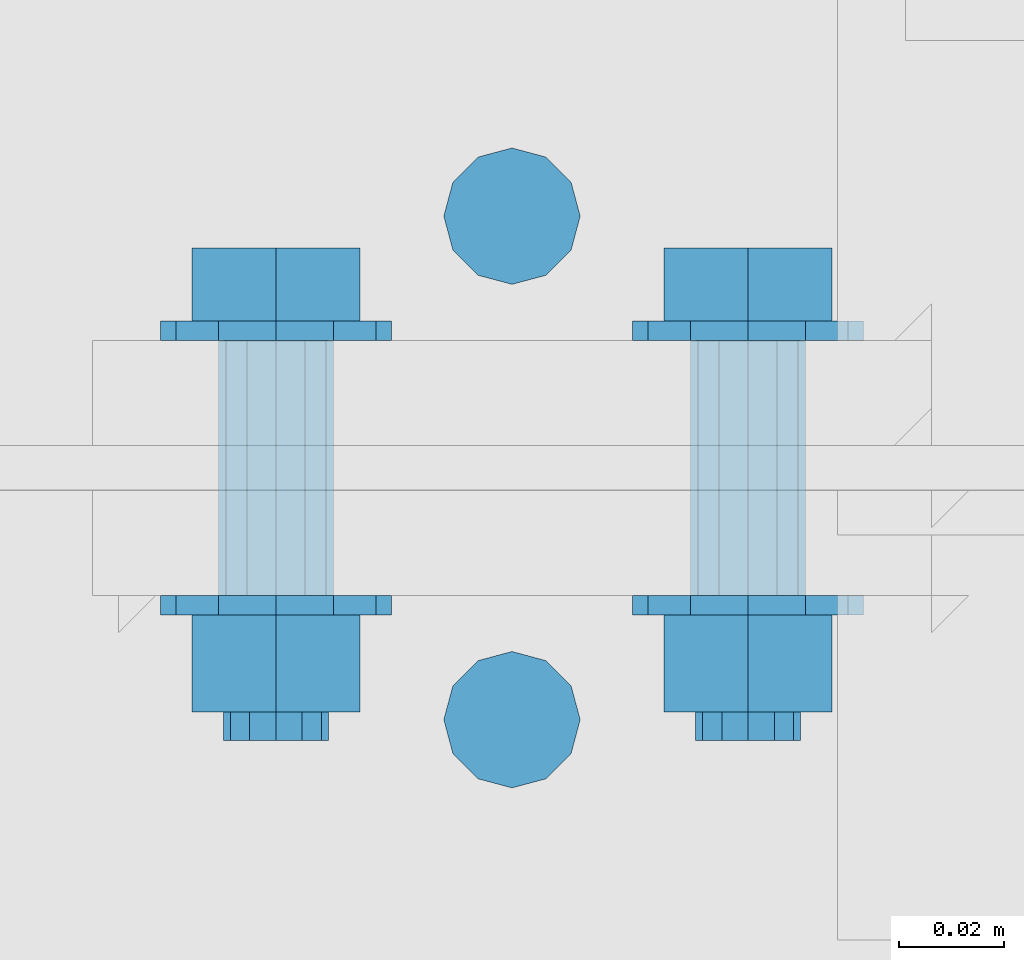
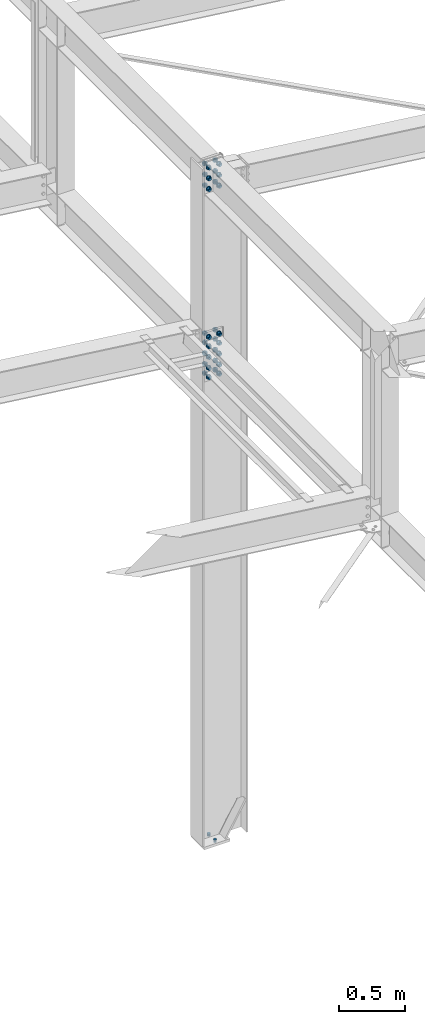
# One storey, part 113 of 3134: 3 mechanical fasteners, 2 elements without a shape of their own.
"""IFC2X3 building model written with IfcOpenShell, lengths in millimetres."""

from ifc_helpers import new_model, si_unit, frame, origin_with_axes, place, context, subcontext, project, spatial, faceted_brep, source, transform, mapped, material, type_object, element, aggregate, save


model = new_model("IFC2X3")

# Units and contexts
model_context = context("Model", 3, precision=1e-05, world=origin_with_axes())
body_context = subcontext(model_context, "Body", "Model", "MODEL_VIEW")
ifc_project = project(units=[si_unit("LENGTHUNIT", "METRE", prefix="MILLI"), si_unit("AREAUNIT", "SQUARE_METRE"), si_unit("VOLUMEUNIT", "CUBIC_METRE"), si_unit("MASSUNIT", "GRAM", prefix="KILO"), si_unit("TIMEUNIT", "SECOND"), si_unit("PLANEANGLEUNIT", "RADIAN"), si_unit("SOLIDANGLEUNIT", "STERADIAN"), si_unit("THERMODYNAMICTEMPERATUREUNIT", "DEGREE_CELSIUS"), si_unit("LUMINOUSINTENSITYUNIT", "LUMEN")], contexts=[model_context])

# Site, building, storey
site_placement = place(None, origin_with_axes())
site = spatial("IfcSite", under=ifc_project, at=site_placement, CompositionType="ELEMENT")
building_placement = place(site_placement, origin_with_axes())
building = spatial("IfcBuilding", under=site, at=building_placement, Name="Undefined", CompositionType="ELEMENT")
storey_placement = place(building_placement, origin_with_axes())
storey = spatial("IfcBuildingStorey", under=building, at=storey_placement, Name="Undefined", CompositionType="ELEMENT", Elevation=0.0)

# Assembly, mechanical fasteners
assembly_1_placement = place(storey_placement, origin_with_axes())
assembly_1 = element("IfcElementAssembly", 1, at=assembly_1_placement, inside=storey, Name="300", AssemblyPlace="NOTDEFINED", PredefinedType="RIGID_FRAME")
ifc_material_1 = material(Name="HR10.9")
mechanical_fastener_type = type_object("IfcMechanicalFastenerType", Name="Bolt assembly")
shared_shape_1 = source(origin_with_axes(), body_context, "Body", "Brep", [
    faceted_brep([(18.475208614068, -61.8999996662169, 0.0), (9.23760430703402, -61.8999996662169, 16.0), (-9.23760430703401, -61.8999996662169, 16.0), (-18.475208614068, -61.8999996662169, 2.2625605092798e-15), (-9.23760430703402, -61.8999996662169, -16.0), (9.237604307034, -61.8999996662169, -16.0), (9.237604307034, -48.0000000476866, -16.0), (-9.23760430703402, -48.0000000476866, -16.0), (-18.475208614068, -48.0000000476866, 2.2625605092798e-15), (-9.23760430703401, -48.0000000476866, 16.0), (9.23760430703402, -48.0000000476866, 16.0), (18.475208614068, -48.0000000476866, 0.0), (10.0, -48.0000000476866, 0.0), (8.66025403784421, -48.0000000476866, 5.0000000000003), (4.9999999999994, -48.0000000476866, 8.66025403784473), (-1.03633598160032e-12, -48.0000000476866, 10.0), (-5.00000000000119, -48.0000000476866, 8.6602540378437), (-8.66025403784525, -48.0000000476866, 4.99999999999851), (-10.0, -48.0000000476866, -2.07267196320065e-12), (-8.66025403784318, -48.0000000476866, -5.00000000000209), (-4.99999999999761, -48.0000000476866, -8.66025403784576), (3.09790571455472e-12, -48.0000000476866, -10.0), (5.00000000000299, -48.0000000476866, -8.66025403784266), (8.66025403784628, -48.0000000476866, -4.99999999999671), (8.66025403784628, 31.9999999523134, -4.99999999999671), (5.00000000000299, 31.9999999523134, -8.66025403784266), (3.09790571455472e-12, 31.9999999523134, -10.0), (-4.99999999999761, 31.9999999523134, -8.66025403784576), (-8.66025403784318, 31.9999999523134, -5.00000000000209), (-10.0, 31.9999999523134, -2.07267196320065e-12), (-8.66025403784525, 31.9999999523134, 4.99999999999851), (-5.00000000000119, 31.9999999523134, 8.6602540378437), (-1.03633598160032e-12, 31.9999999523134, 10.0), (4.9999999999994, 31.9999999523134, 8.66025403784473), (8.66025403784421, 31.9999999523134, 5.0000000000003), (10.0, 31.9999999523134, 0.0), (22.0, -48.0000000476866, 0.0), (19.0525588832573, -48.0000000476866, 11.0000000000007), (10.9999999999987, -48.0000000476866, 19.0525588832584), (-2.27993915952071e-12, -48.0000000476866, 22.0), (-11.0000000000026, -48.0000000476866, 19.0525588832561), (-19.0525588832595, -48.0000000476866, 10.9999999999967), (-22.0, -48.0000000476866, -4.55987831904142e-12), (-19.052558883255, -48.0000000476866, -11.0000000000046), (-10.9999999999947, -48.0000000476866, -19.0525588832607), (6.81539257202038e-12, -48.0000000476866, -22.0), (11.0000000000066, -48.0000000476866, -19.0525588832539), (19.0525588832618, -48.0000000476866, -10.9999999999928), (19.0525588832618, -44.3000000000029, -10.9999999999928), (11.0000000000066, -44.3000000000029, -19.0525588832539), (6.81539257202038e-12, -44.3000000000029, -22.0), (-10.9999999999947, -44.3000000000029, -19.0525588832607), (-19.052558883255, -44.3000000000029, -11.0000000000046), (-22.0, -44.3000000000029, -4.55987831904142e-12), (-19.0525588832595, -44.3000000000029, 10.9999999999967), (-11.0000000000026, -44.3000000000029, 19.0525588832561), (-2.27993915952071e-12, -44.3000000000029, 22.0), (10.9999999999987, -44.3000000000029, 19.0525588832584), (19.0525588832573, -44.3000000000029, 11.0000000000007), (22.0, -44.3000000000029, 0.0), (22.0, 4.30000000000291, 0.0), (19.0525588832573, 4.30000000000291, 11.0000000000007), (10.9999999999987, 4.30000000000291, 19.0525588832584), (-2.27993915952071e-12, 4.30000000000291, 22.0), (-11.0000000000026, 4.30000000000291, 19.0525588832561), (-19.0525588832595, 4.30000000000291, 10.9999999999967), (-22.0, 4.30000000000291, -4.55987831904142e-12), (-19.052558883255, 4.30000000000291, -11.0000000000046), (-10.9999999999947, 4.30000000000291, -19.0525588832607), (6.81539257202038e-12, 4.30000000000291, -22.0), (11.0000000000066, 4.30000000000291, -19.0525588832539), (19.0525588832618, 4.30000000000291, -10.9999999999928), (19.0525588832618, 8.00000004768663, -10.9999999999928), (11.0000000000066, 8.00000004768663, -19.0525588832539), (6.81539257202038e-12, 8.00000004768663, -22.0), (-10.9999999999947, 8.00000004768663, -19.0525588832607), (-19.052558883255, 8.00000004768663, -11.0000000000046), (-22.0, 8.00000004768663, -4.55987831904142e-12), (-19.0525588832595, 8.00000004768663, 10.9999999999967), (-11.0000000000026, 8.00000004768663, 19.0525588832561), (-2.27993915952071e-12, 8.00000004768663, 22.0), (10.9999999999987, 8.00000004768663, 19.0525588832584), (19.0525588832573, 8.00000004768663, 11.0000000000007), (22.0, 8.00000004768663, 0.0), (18.475208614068, 8.00000004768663, 0.0), (9.23760430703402, 8.00000004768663, 16.0), (-9.23760430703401, 8.00000004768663, 16.0), (-18.475208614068, 8.00000004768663, 2.2625605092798e-15), (-9.23760430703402, 8.00000004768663, -16.0), (9.237604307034, 8.00000004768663, -16.0), (9.237604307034, 26.5499992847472, -16.0), (-9.23760430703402, 26.5499992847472, -16.0), (-18.475208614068, 26.5499992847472, 2.2625605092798e-15), (-9.23760430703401, 26.5499992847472, 16.0), (9.23760430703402, 26.5499992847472, 16.0), (18.475208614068, 26.5499992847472, 0.0)], [[[0, 1, 2, 3, 4, 5]], [[6, 7, 8, 9, 10, 11]], [[0, 11, 10, 1]], [[1, 10, 9, 2]], [[2, 9, 8, 3]], [[3, 8, 7, 4]], [[4, 7, 6, 5]], [[5, 6, 11, 0]], [[12, 13, 14, 15, 16, 17, 18, 19, 20, 21, 22, 23]], [[24, 25, 26, 27, 28, 29, 30, 31, 32, 33, 34, 35]], [[12, 35, 34, 13]], [[13, 34, 33, 14]], [[14, 33, 32, 15]], [[15, 32, 31, 16]], [[16, 31, 30, 17]], [[17, 30, 29, 18]], [[18, 29, 28, 19]], [[19, 28, 27, 20]], [[20, 27, 26, 21]], [[21, 26, 25, 22]], [[22, 25, 24, 23]], [[23, 24, 35, 12]], [[36, 37, 38, 39, 40, 41, 42, 43, 44, 45, 46, 47]], [[48, 49, 50, 51, 52, 53, 54, 55, 56, 57, 58, 59]], [[36, 59, 58, 37]], [[37, 58, 57, 38]], [[38, 57, 56, 39]], [[39, 56, 55, 40]], [[40, 55, 54, 41]], [[41, 54, 53, 42]], [[42, 53, 52, 43]], [[43, 52, 51, 44]], [[44, 51, 50, 45]], [[45, 50, 49, 46]], [[46, 49, 48, 47]], [[47, 48, 59, 36]], [[60, 61, 62, 63, 64, 65, 66, 67, 68, 69, 70, 71]], [[72, 73, 74, 75, 76, 77, 78, 79, 80, 81, 82, 83]], [[60, 83, 82, 61]], [[61, 82, 81, 62]], [[62, 81, 80, 63]], [[63, 80, 79, 64]], [[64, 79, 78, 65]], [[65, 78, 77, 66]], [[66, 77, 76, 67]], [[67, 76, 75, 68]], [[68, 75, 74, 69]], [[69, 74, 73, 70]], [[70, 73, 72, 71]], [[71, 72, 83, 60]], [[84, 85, 86, 87, 88, 89]], [[90, 91, 92, 93, 94, 95]], [[84, 95, 94, 85]], [[85, 94, 93, 86]], [[86, 93, 92, 87]], [[87, 92, 91, 88]], [[88, 91, 90, 89]], [[89, 90, 95, 84]]]),
    faceted_brep([(11.0, -24.3000001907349, 0.0), (9.52627944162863, -24.3000001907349, 5.50000000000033), (5.49999999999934, -24.3000001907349, 9.5262794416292), (-1.13996957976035e-12, -24.3000001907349, 11.0), (-5.50000000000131, -24.3000001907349, 9.52627944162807), (-9.52627944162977, -24.3000001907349, 5.49999999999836), (-11.0, -24.3000001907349, -2.27993915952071e-12), (-9.5262794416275, -24.3000001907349, -5.5000000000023), (-5.49999999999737, -24.3000001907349, -9.52627944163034), (3.40769628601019e-12, -24.3000001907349, -11.0), (5.50000000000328, -24.3000001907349, -9.52627944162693), (9.52627944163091, -24.3000001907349, -5.49999999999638), (9.52627944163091, -15.6999998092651, -5.49999999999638), (5.50000000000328, -15.6999998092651, -9.52627944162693), (3.40769628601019e-12, -15.6999998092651, -11.0), (-5.49999999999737, -15.6999998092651, -9.52627944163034), (-9.5262794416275, -15.6999998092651, -5.5000000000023), (-11.0, -15.6999998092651, -2.27993915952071e-12), (-9.52627944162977, -15.6999998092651, 5.49999999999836), (-5.50000000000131, -15.6999998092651, 9.52627944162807), (-1.13996957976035e-12, -15.6999998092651, 11.0), (5.49999999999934, -15.6999998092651, 9.5262794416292), (9.52627944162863, -15.6999998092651, 5.50000000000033), (11.0, -15.6999998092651, 0.0), (11.0, -44.2000000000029, 0.0), (9.52627944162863, -44.2000000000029, 5.50000000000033), (5.49999999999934, -44.2000000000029, 9.5262794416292), (-1.13996957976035e-12, -44.2000000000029, 11.0), (-5.50000000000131, -44.2000000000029, 9.52627944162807), (-9.52627944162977, -44.2000000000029, 5.49999999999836), (-11.0, -44.2000000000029, -2.27993915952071e-12), (-9.5262794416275, -44.2000000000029, -5.5000000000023), (-5.49999999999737, -44.2000000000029, -9.52627944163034), (3.40769628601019e-12, -44.2000000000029, -11.0), (5.50000000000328, -44.2000000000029, -9.52627944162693), (9.52627944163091, -44.2000000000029, -5.49999999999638), (9.52627944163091, -24.2000000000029, -5.49999999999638), (5.50000000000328, -24.2000000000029, -9.52627944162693), (3.40769628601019e-12, -24.2000000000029, -11.0), (-5.49999999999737, -24.2000000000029, -9.52627944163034), (-9.5262794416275, -24.2000000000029, -5.5000000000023), (-11.0, -24.2000000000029, -2.27993915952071e-12), (-9.52627944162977, -24.2000000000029, 5.49999999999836), (-5.50000000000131, -24.2000000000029, 9.52627944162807), (-1.13996957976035e-12, -24.2000000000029, 11.0), (5.49999999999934, -24.2000000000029, 9.5262794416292), (9.52627944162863, -24.2000000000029, 5.50000000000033), (11.0, -24.2000000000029, 0.0), (11.0, -15.7999999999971, 0.0), (9.52627944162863, -15.7999999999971, 5.50000000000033), (5.49999999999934, -15.7999999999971, 9.5262794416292), (-1.13996957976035e-12, -15.7999999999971, 11.0), (-5.50000000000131, -15.7999999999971, 9.52627944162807), (-9.52627944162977, -15.7999999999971, 5.49999999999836), (-11.0, -15.7999999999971, -2.27993915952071e-12), (-9.5262794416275, -15.7999999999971, -5.5000000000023), (-5.49999999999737, -15.7999999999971, -9.52627944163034), (3.40769628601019e-12, -15.7999999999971, -11.0), (5.50000000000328, -15.7999999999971, -9.52627944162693), (9.52627944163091, -15.7999999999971, -5.49999999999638), (9.52627944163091, 4.30000000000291, -5.49999999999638), (5.50000000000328, 4.30000000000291, -9.52627944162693), (3.40769628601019e-12, 4.30000000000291, -11.0), (-5.49999999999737, 4.30000000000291, -9.52627944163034), (-9.5262794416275, 4.30000000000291, -5.5000000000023), (-11.0, 4.30000000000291, -2.27993915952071e-12), (-9.52627944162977, 4.30000000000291, 5.49999999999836), (-5.50000000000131, 4.30000000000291, 9.52627944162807), (-1.13996957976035e-12, 4.30000000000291, 11.0), (5.49999999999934, 4.30000000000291, 9.5262794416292), (9.52627944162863, 4.30000000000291, 5.50000000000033), (11.0, 4.30000000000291, 0.0)], [[[0, 1, 2, 3, 4, 5, 6, 7, 8, 9, 10, 11]], [[12, 13, 14, 15, 16, 17, 18, 19, 20, 21, 22, 23]], [[0, 23, 22, 1]], [[1, 22, 21, 2]], [[2, 21, 20, 3]], [[3, 20, 19, 4]], [[4, 19, 18, 5]], [[5, 18, 17, 6]], [[6, 17, 16, 7]], [[7, 16, 15, 8]], [[8, 15, 14, 9]], [[9, 14, 13, 10]], [[10, 13, 12, 11]], [[11, 12, 23, 0]], [[24, 25, 26, 27, 28, 29, 30, 31, 32, 33, 34, 35]], [[36, 37, 38, 39, 40, 41, 42, 43, 44, 45, 46, 47]], [[24, 47, 46, 25]], [[25, 46, 45, 26]], [[26, 45, 44, 27]], [[27, 44, 43, 28]], [[28, 43, 42, 29]], [[29, 42, 41, 30]], [[30, 41, 40, 31]], [[31, 40, 39, 32]], [[32, 39, 38, 33]], [[33, 38, 37, 34]], [[34, 37, 36, 35]], [[35, 36, 47, 24]], [[48, 49, 50, 51, 52, 53, 54, 55, 56, 57, 58, 59]], [[60, 61, 62, 63, 64, 65, 66, 67, 68, 69, 70, 71]], [[48, 71, 70, 49]], [[49, 70, 69, 50]], [[50, 69, 68, 51]], [[51, 68, 67, 52]], [[52, 67, 66, 53]], [[53, 66, 65, 54]], [[54, 65, 64, 55]], [[55, 64, 63, 56]], [[56, 63, 62, 57]], [[57, 62, 61, 58]], [[58, 61, 60, 59]], [[59, 60, 71, 48]]]),
])
mechanical_fastener_1_placement = place(assembly_1_placement, frame((32525.0, 7630.0, 5841.5), z_axis=(-1.0, 0.0, 0.0), x_axis=(0.0, 0.0, -1.0)))
mechanical_fastener_1 = element("IfcMechanicalFastener", 2, at=mechanical_fastener_1_placement, type_object=mechanical_fastener_type, material=ifc_material_1, Name="Bolt assembly", NominalDiameter=20.0, NominalLength=80.0, context=body_context, shape_type="MappedRepresentation", body=[
    mapped(shared_shape_1, transform((0.0, 0.0, -45.0))),
    mapped(shared_shape_1, transform((100.0, 0.0, -45.0))),
    mapped(shared_shape_1, transform((200.0, 0.0, -45.0))),
    mapped(shared_shape_1, transform((0.0, 0.0, 45.0))),
    mapped(shared_shape_1, transform((100.0, 0.0, 45.0))),
    mapped(shared_shape_1, transform((200.0, 0.0, 45.0))),
])
shared_shape_2 = source(origin_with_axes(), body_context, "Body", "Brep", [
    faceted_brep([(18.475208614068, -17.599999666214, 0.0), (9.23760430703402, -17.599999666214, 16.0), (-9.23760430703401, -17.599999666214, 16.0), (-18.475208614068, -17.599999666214, 2.2625605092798e-15), (-9.23760430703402, -17.599999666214, -16.0), (9.237604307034, -17.599999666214, -16.0), (9.237604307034, -3.70000004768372, -16.0), (-9.23760430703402, -3.70000004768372, -16.0), (-18.475208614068, -3.70000004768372, 2.2625605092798e-15), (-9.23760430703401, -3.70000004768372, 16.0), (9.23760430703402, -3.70000004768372, 16.0), (18.475208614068, -3.70000004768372, 0.0), (10.0, -3.70000004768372, 0.0), (8.66025403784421, -3.70000004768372, 5.0000000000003), (4.9999999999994, -3.70000004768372, 8.66025403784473), (-1.03633598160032e-12, -3.70000004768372, 10.0), (-5.00000000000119, -3.70000004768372, 8.6602540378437), (-8.66025403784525, -3.70000004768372, 4.99999999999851), (-10.0, -3.70000004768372, -2.07267196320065e-12), (-8.66025403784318, -3.70000004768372, -5.00000000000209), (-4.99999999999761, -3.70000004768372, -8.66025403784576), (3.09790571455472e-12, -3.70000004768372, -10.0), (5.00000000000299, -3.70000004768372, -8.66025403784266), (8.66025403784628, -3.70000004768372, -4.99999999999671), (8.66025403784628, 76.2999999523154, -4.99999999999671), (5.00000000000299, 76.2999999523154, -8.66025403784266), (3.09790571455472e-12, 76.2999999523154, -10.0), (-4.99999999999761, 76.2999999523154, -8.66025403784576), (-8.66025403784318, 76.2999999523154, -5.00000000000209), (-10.0, 76.2999999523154, -2.07267196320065e-12), (-8.66025403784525, 76.2999999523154, 4.99999999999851), (-5.00000000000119, 76.2999999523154, 8.6602540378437), (-1.03633598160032e-12, 76.2999999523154, 10.0), (4.9999999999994, 76.2999999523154, 8.66025403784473), (8.66025403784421, 76.2999999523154, 5.0000000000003), (10.0, 76.2999999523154, 0.0), (22.0, -3.70000004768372, 0.0), (19.0525588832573, -3.70000004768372, 11.0000000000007), (10.9999999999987, -3.70000004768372, 19.0525588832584), (-2.27993915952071e-12, -3.70000004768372, 22.0), (-11.0000000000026, -3.70000004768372, 19.0525588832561), (-19.0525588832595, -3.70000004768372, 10.9999999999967), (-22.0, -3.70000004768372, -4.55987831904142e-12), (-19.052558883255, -3.70000004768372, -11.0000000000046), (-10.9999999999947, -3.70000004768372, -19.0525588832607), (6.81539257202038e-12, -3.70000004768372, -22.0), (11.0000000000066, -3.70000004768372, -19.0525588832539), (19.0525588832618, -3.70000004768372, -10.9999999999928), (19.0525588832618, 0.0, -10.9999999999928), (11.0000000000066, 0.0, -19.0525588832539), (6.81539257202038e-12, 0.0, -22.0), (-10.9999999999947, 0.0, -19.0525588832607), (-19.052558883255, 0.0, -11.0000000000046), (-22.0, 0.0, -4.55987831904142e-12), (-19.0525588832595, 0.0, 10.9999999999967), (-11.0000000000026, 0.0, 19.0525588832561), (-2.27993915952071e-12, 0.0, 22.0), (10.9999999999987, 0.0, 19.0525588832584), (19.0525588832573, 0.0, 11.0000000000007), (22.0, 0.0, 0.0), (22.0, 48.5999999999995, 0.0), (19.0525588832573, 48.5999999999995, 11.0000000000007), (10.9999999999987, 48.5999999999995, 19.0525588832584), (-2.27993915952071e-12, 48.5999999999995, 22.0), (-11.0000000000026, 48.5999999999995, 19.0525588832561), (-19.0525588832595, 48.5999999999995, 10.9999999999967), (-22.0, 48.5999999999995, -4.55987831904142e-12), (-19.052558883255, 48.5999999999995, -11.0000000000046), (-10.9999999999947, 48.5999999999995, -19.0525588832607), (6.81539257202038e-12, 48.5999999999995, -22.0), (11.0000000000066, 48.5999999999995, -19.0525588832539), (19.0525588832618, 48.5999999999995, -10.9999999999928), (19.0525588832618, 52.3000000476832, -10.9999999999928), (11.0000000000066, 52.3000000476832, -19.0525588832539), (6.81539257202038e-12, 52.3000000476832, -22.0), (-10.9999999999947, 52.3000000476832, -19.0525588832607), (-19.052558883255, 52.3000000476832, -11.0000000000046), (-22.0, 52.3000000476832, -4.55987831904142e-12), (-19.0525588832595, 52.3000000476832, 10.9999999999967), (-11.0000000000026, 52.3000000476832, 19.0525588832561), (-2.27993915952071e-12, 52.3000000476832, 22.0), (10.9999999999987, 52.3000000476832, 19.0525588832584), (19.0525588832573, 52.3000000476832, 11.0000000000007), (22.0, 52.3000000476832, 0.0), (18.475208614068, 52.3000000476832, 0.0), (9.23760430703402, 52.3000000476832, 16.0), (-9.23760430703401, 52.3000000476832, 16.0), (-18.475208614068, 52.3000000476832, 2.2625605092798e-15), (-9.23760430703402, 52.3000000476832, -16.0), (9.237604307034, 52.3000000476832, -16.0), (9.237604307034, 70.8499992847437, -16.0), (-9.23760430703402, 70.8499992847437, -16.0), (-18.475208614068, 70.8499992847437, 2.2625605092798e-15), (-9.23760430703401, 70.8499992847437, 16.0), (9.23760430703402, 70.8499992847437, 16.0), (18.475208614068, 70.8499992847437, 0.0)], [[[0, 1, 2, 3, 4, 5]], [[6, 7, 8, 9, 10, 11]], [[0, 11, 10, 1]], [[1, 10, 9, 2]], [[2, 9, 8, 3]], [[3, 8, 7, 4]], [[4, 7, 6, 5]], [[5, 6, 11, 0]], [[12, 13, 14, 15, 16, 17, 18, 19, 20, 21, 22, 23]], [[24, 25, 26, 27, 28, 29, 30, 31, 32, 33, 34, 35]], [[12, 35, 34, 13]], [[13, 34, 33, 14]], [[14, 33, 32, 15]], [[15, 32, 31, 16]], [[16, 31, 30, 17]], [[17, 30, 29, 18]], [[18, 29, 28, 19]], [[19, 28, 27, 20]], [[20, 27, 26, 21]], [[21, 26, 25, 22]], [[22, 25, 24, 23]], [[23, 24, 35, 12]], [[36, 37, 38, 39, 40, 41, 42, 43, 44, 45, 46, 47]], [[48, 49, 50, 51, 52, 53, 54, 55, 56, 57, 58, 59]], [[36, 59, 58, 37]], [[37, 58, 57, 38]], [[38, 57, 56, 39]], [[39, 56, 55, 40]], [[40, 55, 54, 41]], [[41, 54, 53, 42]], [[42, 53, 52, 43]], [[43, 52, 51, 44]], [[44, 51, 50, 45]], [[45, 50, 49, 46]], [[46, 49, 48, 47]], [[47, 48, 59, 36]], [[60, 61, 62, 63, 64, 65, 66, 67, 68, 69, 70, 71]], [[72, 73, 74, 75, 76, 77, 78, 79, 80, 81, 82, 83]], [[60, 83, 82, 61]], [[61, 82, 81, 62]], [[62, 81, 80, 63]], [[63, 80, 79, 64]], [[64, 79, 78, 65]], [[65, 78, 77, 66]], [[66, 77, 76, 67]], [[67, 76, 75, 68]], [[68, 75, 74, 69]], [[69, 74, 73, 70]], [[70, 73, 72, 71]], [[71, 72, 83, 60]], [[84, 85, 86, 87, 88, 89]], [[90, 91, 92, 93, 94, 95]], [[84, 95, 94, 85]], [[85, 94, 93, 86]], [[86, 93, 92, 87]], [[87, 92, 91, 88]], [[88, 91, 90, 89]], [[89, 90, 95, 84]]]),
    faceted_brep([(11.0, 20.0, 0.0), (9.52627944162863, 20.0, 5.50000000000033), (5.49999999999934, 20.0, 9.5262794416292), (-1.13996957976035e-12, 20.0, 11.0), (-5.50000000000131, 20.0, 9.52627944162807), (-9.52627944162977, 20.0, 5.49999999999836), (-11.0, 20.0, -2.27993915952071e-12), (-9.5262794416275, 20.0, -5.5000000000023), (-5.49999999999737, 20.0, -9.52627944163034), (3.40769628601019e-12, 20.0, -11.0), (5.50000000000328, 20.0, -9.52627944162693), (9.52627944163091, 20.0, -5.49999999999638), (9.52627944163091, 28.6000001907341, -5.49999999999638), (5.50000000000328, 28.6000001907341, -9.52627944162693), (3.40769628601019e-12, 28.6000001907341, -11.0), (-5.49999999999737, 28.6000001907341, -9.52627944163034), (-9.5262794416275, 28.6000001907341, -5.5000000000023), (-11.0, 28.6000001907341, -2.27993915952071e-12), (-9.52627944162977, 28.6000001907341, 5.49999999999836), (-5.50000000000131, 28.6000001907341, 9.52627944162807), (-1.13996957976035e-12, 28.6000001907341, 11.0), (5.49999999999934, 28.6000001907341, 9.5262794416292), (9.52627944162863, 28.6000001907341, 5.50000000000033), (11.0, 28.6000001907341, 0.0), (11.0, 0.0999999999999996, 0.0), (9.52627944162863, 0.0999999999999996, 5.50000000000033), (5.49999999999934, 0.0999999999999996, 9.5262794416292), (-1.13996957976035e-12, 0.0999999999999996, 11.0), (-5.50000000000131, 0.0999999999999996, 9.52627944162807), (-9.52627944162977, 0.0999999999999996, 5.49999999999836), (-11.0, 0.0999999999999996, -2.27993915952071e-12), (-9.5262794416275, 0.0999999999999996, -5.5000000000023), (-5.49999999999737, 0.0999999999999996, -9.52627944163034), (3.40769628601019e-12, 0.0999999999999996, -11.0), (5.50000000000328, 0.0999999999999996, -9.52627944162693), (9.52627944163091, 0.0999999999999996, -5.49999999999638), (9.52627944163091, 20.1, -5.49999999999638), (5.50000000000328, 20.1, -9.52627944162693), (3.40769628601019e-12, 20.1, -11.0), (-5.49999999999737, 20.1, -9.52627944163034), (-9.5262794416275, 20.1, -5.5000000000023), (-11.0, 20.1, -2.27993915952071e-12), (-9.52627944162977, 20.1, 5.49999999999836), (-5.50000000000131, 20.1, 9.52627944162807), (-1.13996957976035e-12, 20.1, 11.0), (5.49999999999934, 20.1, 9.5262794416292), (9.52627944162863, 20.1, 5.50000000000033), (11.0, 20.1, 0.0), (11.0, 28.4999999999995, 0.0), (9.52627944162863, 28.4999999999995, 5.50000000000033), (5.49999999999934, 28.4999999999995, 9.5262794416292), (-1.13996957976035e-12, 28.4999999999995, 11.0), (-5.50000000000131, 28.4999999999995, 9.52627944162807), (-9.52627944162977, 28.4999999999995, 5.49999999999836), (-11.0, 28.4999999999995, -2.27993915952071e-12), (-9.5262794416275, 28.4999999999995, -5.5000000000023), (-5.49999999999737, 28.4999999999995, -9.52627944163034), (3.40769628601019e-12, 28.4999999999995, -11.0), (5.50000000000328, 28.4999999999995, -9.52627944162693), (9.52627944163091, 28.4999999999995, -5.49999999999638), (9.52627944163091, 48.5999999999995, -5.49999999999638), (5.50000000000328, 48.5999999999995, -9.52627944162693), (3.40769628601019e-12, 48.5999999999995, -11.0), (-5.49999999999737, 48.5999999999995, -9.52627944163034), (-9.5262794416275, 48.5999999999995, -5.5000000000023), (-11.0, 48.5999999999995, -2.27993915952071e-12), (-9.52627944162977, 48.5999999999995, 5.49999999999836), (-5.50000000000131, 48.5999999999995, 9.52627944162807), (-1.13996957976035e-12, 48.5999999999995, 11.0), (5.49999999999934, 48.5999999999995, 9.5262794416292), (9.52627944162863, 48.5999999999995, 5.50000000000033), (11.0, 48.5999999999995, 0.0)], [[[0, 1, 2, 3, 4, 5, 6, 7, 8, 9, 10, 11]], [[12, 13, 14, 15, 16, 17, 18, 19, 20, 21, 22, 23]], [[0, 23, 22, 1]], [[1, 22, 21, 2]], [[2, 21, 20, 3]], [[3, 20, 19, 4]], [[4, 19, 18, 5]], [[5, 18, 17, 6]], [[6, 17, 16, 7]], [[7, 16, 15, 8]], [[8, 15, 14, 9]], [[9, 14, 13, 10]], [[10, 13, 12, 11]], [[11, 12, 23, 0]], [[24, 25, 26, 27, 28, 29, 30, 31, 32, 33, 34, 35]], [[36, 37, 38, 39, 40, 41, 42, 43, 44, 45, 46, 47]], [[24, 47, 46, 25]], [[25, 46, 45, 26]], [[26, 45, 44, 27]], [[27, 44, 43, 28]], [[28, 43, 42, 29]], [[29, 42, 41, 30]], [[30, 41, 40, 31]], [[31, 40, 39, 32]], [[32, 39, 38, 33]], [[33, 38, 37, 34]], [[34, 37, 36, 35]], [[35, 36, 47, 24]], [[48, 49, 50, 51, 52, 53, 54, 55, 56, 57, 58, 59]], [[60, 61, 62, 63, 64, 65, 66, 67, 68, 69, 70, 71]], [[48, 71, 70, 49]], [[49, 70, 69, 50]], [[50, 69, 68, 51]], [[51, 68, 67, 52]], [[52, 67, 66, 53]], [[53, 66, 65, 54]], [[54, 65, 64, 55]], [[55, 64, 63, 56]], [[56, 63, 62, 57]], [[57, 62, 61, 58]], [[58, 61, 60, 59]], [[59, 60, 71, 48]]]),
])
mechanical_fastener_2_placement = place(assembly_1_placement, frame((32525.0, 7674.3, 4273.5), z_axis=(-1.0, 0.0, 0.0), x_axis=(0.0, 0.0, -1.0)))
mechanical_fastener_2 = element("IfcMechanicalFastener", 3, at=mechanical_fastener_2_placement, type_object=mechanical_fastener_type, material=ifc_material_1, Name="Bolt assembly", NominalDiameter=20.0, NominalLength=80.0, context=body_context, shape_type="MappedRepresentation", body=[
    mapped(shared_shape_2, transform((0.0, 0.0, -45.0))),
    mapped(shared_shape_2, transform((85.0, 0.0, -45.0))),
    mapped(shared_shape_2, transform((185.0, 0.0, -45.0))),
    mapped(shared_shape_2, transform((285.0, 0.0, -45.0))),
    mapped(shared_shape_2, transform((370.0, 0.0, -45.0))),
    mapped(shared_shape_2, transform((0.0, 0.0, 45.0))),
    mapped(shared_shape_2, transform((85.0, 0.0, 45.0))),
    mapped(shared_shape_2, transform((185.0, 0.0, 45.0))),
    mapped(shared_shape_2, transform((285.0, 0.0, 45.0))),
    mapped(shared_shape_2, transform((370.0, 0.0, 45.0))),
])
aggregate(assembly_1, [mechanical_fastener_1, mechanical_fastener_2])

# Assembly, mechanical fastener
assembly_2_placement = place(storey_placement, origin_with_axes())
assembly_2 = element("IfcElementAssembly", 4, at=assembly_2_placement, inside=storey, Name="IPE400", AssemblyPlace="NOTDEFINED", PredefinedType="RIGID_FRAME")
ifc_material_2 = material(Name="8.8")
shared_shape_3 = source(origin_with_axes(), body_context, "Body", "Brep", [
    faceted_brep([(13.0, -25.000000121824, 0.0), (11.2583302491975, -25.000000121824, 6.50000000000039), (6.49999999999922, -25.000000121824, 11.2583302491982), (-1.34723677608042e-12, -25.000000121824, 13.0), (-6.50000000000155, -25.000000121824, 11.2583302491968), (-11.2583302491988, -25.000000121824, 6.49999999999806), (-13.0, -25.000000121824, -2.69447355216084e-12), (-11.2583302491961, -25.000000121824, -6.50000000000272), (-6.4999999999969, -25.000000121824, -11.2583302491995), (4.02727742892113e-12, -25.000000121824, -13.0), (6.50000000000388, -25.000000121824, -11.2583302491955), (11.2583302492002, -25.000000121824, -6.49999999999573), (11.2583302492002, 0.100000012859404, -6.49999999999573), (6.50000000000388, 0.100000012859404, -11.2583302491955), (4.02727742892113e-12, 0.100000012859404, -13.0), (-6.4999999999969, 0.100000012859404, -11.2583302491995), (-11.2583302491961, 0.100000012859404, -6.50000000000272), (-13.0, 0.100000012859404, -2.69447355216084e-12), (-11.2583302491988, 0.100000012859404, 6.49999999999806), (-6.50000000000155, 0.100000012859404, 11.2583302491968), (-1.34723677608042e-12, 0.100000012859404, 13.0), (6.49999999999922, 0.100000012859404, 11.2583302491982), (11.2583302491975, 0.100000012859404, 6.50000000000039), (13.0, 0.100000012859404, 0.0)], [[[0, 1, 2, 3, 4, 5, 6, 7, 8, 9, 10, 11]], [[12, 13, 14, 15, 16, 17, 18, 19, 20, 21, 22, 23]], [[0, 23, 22, 1]], [[1, 22, 21, 2]], [[2, 21, 20, 3]], [[3, 20, 19, 4]], [[4, 19, 18, 5]], [[5, 18, 17, 6]], [[6, 17, 16, 7]], [[7, 16, 15, 8]], [[8, 15, 14, 9]], [[9, 14, 13, 10]], [[10, 13, 12, 11]], [[11, 12, 23, 0]]]),
])
mechanical_fastener_3_placement = place(assembly_2_placement, frame((32855.0, 7649.99999991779, -374.999999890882), z_axis=(0.0, 1.0, 0.0), x_axis=(-1.0, 0.0, 0.0)))
mechanical_fastener_3 = element("IfcMechanicalFastener", 5, at=mechanical_fastener_3_placement, type_object=mechanical_fastener_type, material=ifc_material_2, Name="Bolt assembly", NominalDiameter=24.0, NominalLength=25.0, context=body_context, shape_type="MappedRepresentation", body=[
    mapped(shared_shape_3, transform((330.0, 0.0, -48.0))),
    mapped(shared_shape_3, transform((330.0, 0.0, 48.0))),
])
aggregate(assembly_2, [mechanical_fastener_3])

save(model, "model.ifc")
